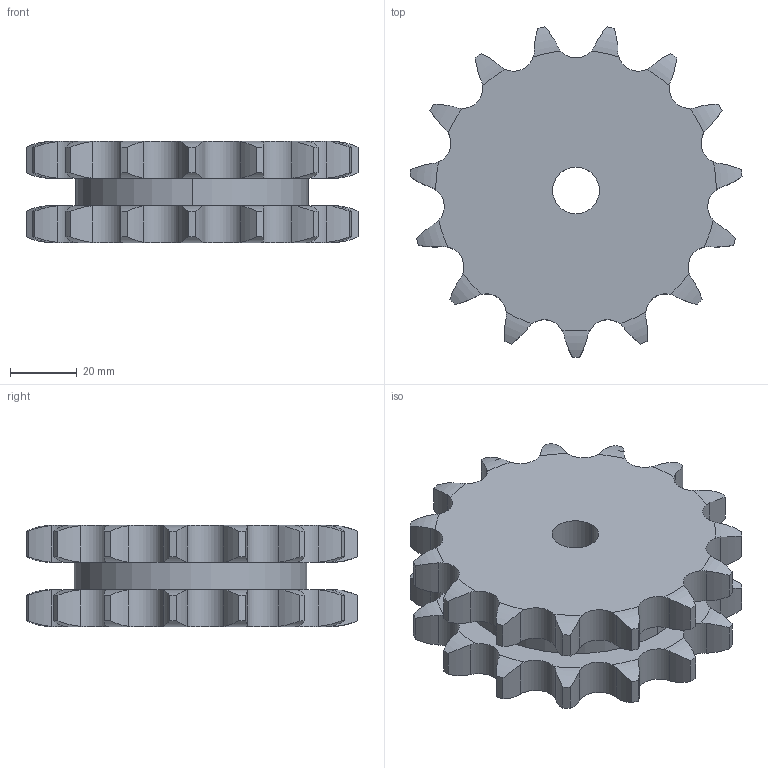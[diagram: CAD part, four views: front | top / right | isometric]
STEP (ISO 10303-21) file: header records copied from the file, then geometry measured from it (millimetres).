
FILE_DESCRIPTION((''),'2;1');
FILE_NAME('500-402-0015_PRT','2021-02-12T',('Brieden'),('Brieden'),'PRO/ENGINEER BY PARAMETRIC TECHNOLOGY CORPORATION, 2010160','PRO/ENGINEER BY PARAMETRIC TECHNOLOGY CORPORATION, 2010160','');
FILE_SCHEMA(('AUTOMOTIVE_DESIGN { 1 0 10303 214 1 1 1 1 }'));
Length unit declared in the file: millimetre
Products named in the file (1): 500-402-0015_PRT
Bounding box: 99.46 x 98.93 x 30.3 mm (x, y, z)
Volume: 158031.9 mm3; surface area: 28331 mm2
Topology: 1 solids, 1 shells, 188 faces, 552 edges, 368 vertices
Faces by surface type: cylinder 124, torus 60, plane 4
Entity records: 8882 total; most frequent: CARTESIAN_POINT 2439, ORIENTED_EDGE 1104, DIRECTION 876, PRESENTATION_STYLE_ASSIGNMENT 553, STYLED_ITEM 553, CURVE_STYLE 552, EDGE_CURVE 552, AXIS2_PLACEMENT_3D 376
